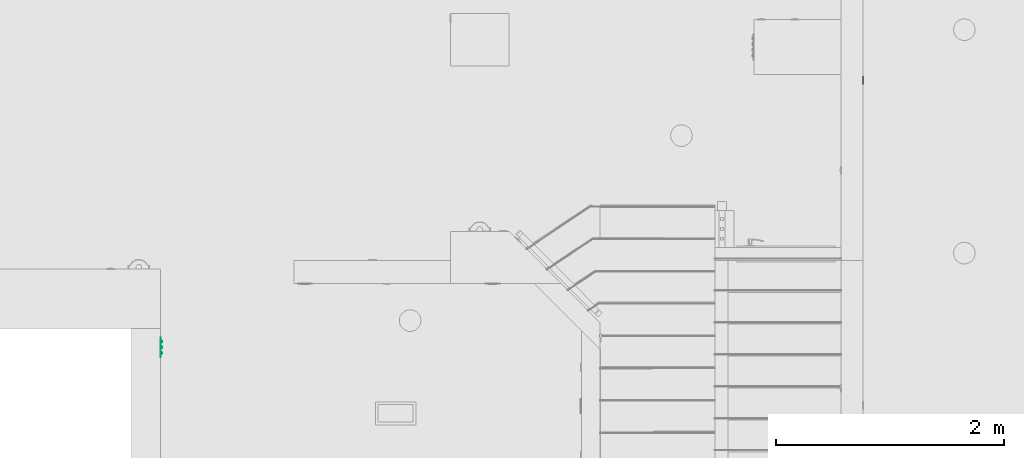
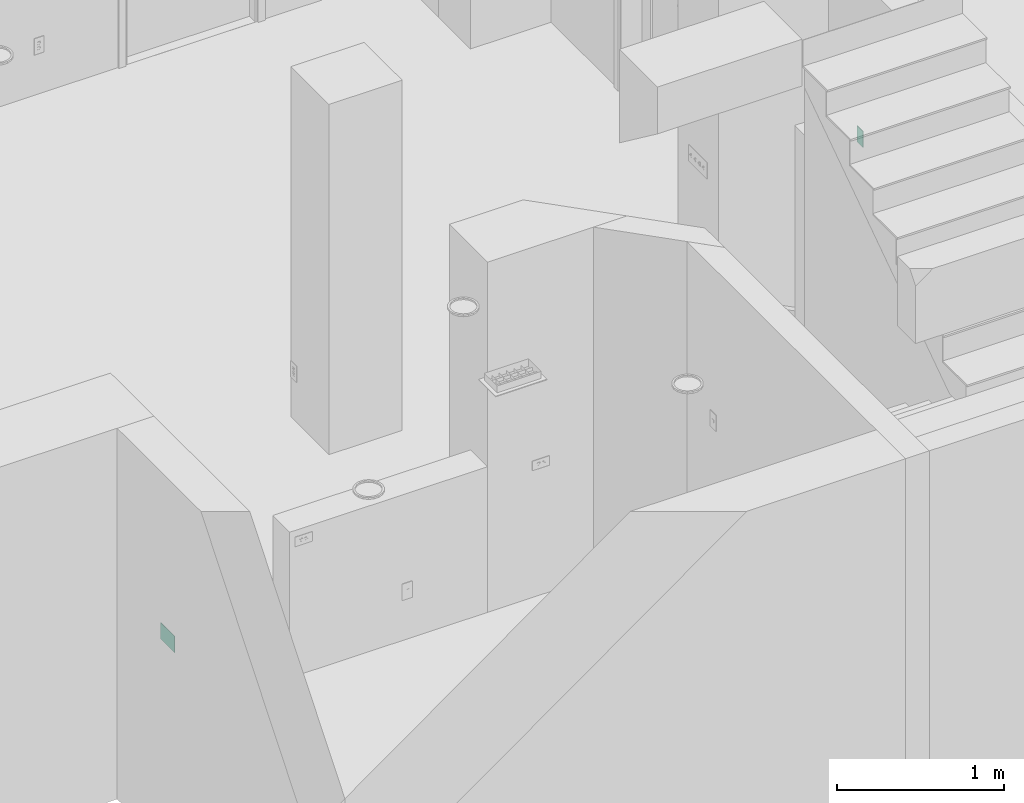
# One storey, part 16 of 48: 2 flow controllers.
"""IFC2X3 building model written with IfcOpenShell, lengths in inches."""

from ifc_helpers import new_model, entity, si_unit, converted_unit, derived_unit, money_unit, direction, frame, origin_with_axes, place, context, subcontext, project, spatial, faceted_brep, type_object, element, save


model = new_model("IFC2X3")

# Units and contexts
model_context = context("Model", 3, precision=0.00039370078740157, world=origin_with_axes(), true_north=direction((0.0, 1.0)))
plan_context = context("Plan", 3, precision=0.00039370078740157, world=origin_with_axes(), true_north=direction((0.0, 1.0)))
body_context = subcontext(model_context, "Body", "Model", "MODEL_VIEW")
ifc_project = project(units=[converted_unit("LENGTHUNIT", "INCH", entity("IfcPositiveLengthMeasure", 0.0254), si_unit("LENGTHUNIT", "METRE"), dimensions=[1, 0, 0, 0, 0, 0, 0]), converted_unit("AREAUNIT", "SQUARE_FOOT", entity("IfcPositiveLengthMeasure", 0.09290304), si_unit("AREAUNIT", "SQUARE_METRE"), dimensions=[2, 0, 0, 0, 0, 0, 0]), si_unit("PLANEANGLEUNIT", "RADIAN"), si_unit("SOLIDANGLEUNIT", "STERADIAN"), money_unit("USD"), converted_unit("TIMEUNIT", "Year", entity("IfcTimeMeasure", 31557600.0), si_unit("TIMEUNIT", "SECOND"), dimensions=[0, 0, 1, 0, 0, 0, 0]), si_unit("MASSUNIT", "GRAM", prefix="KILO"), si_unit("THERMODYNAMICTEMPERATUREUNIT", "DEGREE_CELSIUS"), si_unit("LUMINOUSINTENSITYUNIT", "LUMEN"), si_unit("ENERGYUNIT", "JOULE", prefix="MEGA"), derived_unit("SPECIFICHEATCAPACITYUNIT", [(si_unit("ENERGYUNIT", "JOULE"), 1), (si_unit("MASSUNIT", "GRAM", prefix="KILO"), -1), (si_unit("THERMODYNAMICTEMPERATUREUNIT", "KELVIN"), -1)])], contexts=[model_context, plan_context])

# Site, building, storey
site_placement = place(None, origin_with_axes())
site = spatial("IfcSite", under=ifc_project, at=site_placement, Name="Site", CompositionType="ELEMENT")
building_placement = place(site_placement, origin_with_axes())
building = spatial("IfcBuilding", under=site, at=building_placement, Name="Building", CompositionType="ELEMENT")
storey_placement = place(building_placement, origin_with_axes())
storey = spatial("IfcBuildingStorey", under=building, at=storey_placement, Name="First Floor", CompositionType="ELEMENT", Elevation=0.0)

# Flow controllers
switching_device_type_1 = type_object("IfcSwitchingDeviceType", Name="Outlet 1 US", PredefinedType="NOTDEFINED")
flow_controller_1_placement = place(storey_placement, frame((251.9999999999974, 189.4999999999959, 44.99999999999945), z_axis=(0.0, 0.0, 1.0), x_axis=(0.0, 1.0, 0.0)))
element("IfcFlowController", 1, at=flow_controller_1_placement, inside=storey, type_object=switching_device_type_1, Name="OBJ-05", context=body_context, shape_type="Brep", body=[
    faceted_brep([(-0.39370078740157, -0.0344488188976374, -0.472440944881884), (-0.39370078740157, -0.2165354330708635, -0.472440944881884), (-0.3937007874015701, -0.2165354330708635, 0.472440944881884), (-0.3937007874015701, -0.03444881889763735, 0.472440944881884), (0.3937007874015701, -0.0344488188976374, -0.4724409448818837), (0.3937007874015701, -0.2165354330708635, -0.4724409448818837), (0.39370078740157, -0.2165354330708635, 0.472440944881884), (0.39370078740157, -0.03444881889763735, 0.472440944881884)], [[[0, 1, 2, 3]], [[4, 5, 1, 0]], [[1, 5, 6, 2]], [[3, 2, 6, 7]], [[0, 3, 7, 4]], [[7, 6, 5, 4]]]),
    faceted_brep([(-1.377952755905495, -0.1377952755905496, -2.36220472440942), (1.377952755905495, -0.1377952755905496, -2.36220472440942), (1.377952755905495, -0.1377952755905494, 2.36220472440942), (-1.377952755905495, -0.1377952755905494, 2.36220472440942), (0.3937007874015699, -0.1377952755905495, -0.4724409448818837), (-0.39370078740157, -0.1377952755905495, -0.472440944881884), (-0.3937007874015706, -0.1377952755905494, 0.4724409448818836), (0.39370078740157, -0.1377952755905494, 0.4724409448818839), (-1.377952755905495, 0.0, -2.36220472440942), (1.377952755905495, 0.0, -2.36220472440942), (1.377952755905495, 0.0, 2.36220472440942), (-1.377952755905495, 0.0, 2.36220472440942), (0.3937007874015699, -0.0344488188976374, -0.4724409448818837), (-0.39370078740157, -0.0344488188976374, -0.472440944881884), (-0.3937007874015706, -0.03444881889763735, 0.4724409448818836), (0.39370078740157, -0.03444881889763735, 0.4724409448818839)], [[[0, 1, 2, 3], [4, 5, 6, 7]], [[8, 9, 1, 0]], [[9, 10, 2, 1]], [[10, 11, 3, 2]], [[11, 8, 0, 3]], [[4, 12, 13, 5]], [[5, 13, 14, 6]], [[6, 14, 15, 7]], [[7, 15, 12, 4]], [[10, 9, 8, 11]], [[14, 13, 12, 15]]]),
])
switching_device_type_2 = type_object("IfcSwitchingDeviceType", Name="Switch US", PredefinedType="NOTDEFINED")
flow_controller_2_placement = place(storey_placement, frame((9.999999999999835, 97.4940944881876, 40.9999999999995), z_axis=(0.0, 0.0, 1.0), x_axis=(0.0, 1.0, 0.0)))
element("IfcFlowController", 2, at=flow_controller_2_placement, inside=storey, type_object=switching_device_type_2, Name="OBJ-09", context=body_context, shape_type="Brep", body=[
    faceted_brep([(-2.165354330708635, 0.0, -0.5905511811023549), (-2.165354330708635, 0.0, 0.5905511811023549), (-1.771653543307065, 0.0, 0.5905511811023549), (-1.771653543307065, 0.0, -0.5905511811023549), (-2.165354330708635, -0.1033464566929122, -0.5905511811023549), (-2.165354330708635, -0.1033464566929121, 0.157480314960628), (-2.165354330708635, -0.4970472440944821, 0.1574803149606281), (-2.165354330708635, -0.4970472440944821, 0.472440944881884), (-2.165354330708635, -0.1033464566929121, 0.472440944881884), (-2.165354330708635, -0.103346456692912, 0.5905511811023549), (-1.771653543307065, -0.1033464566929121, 0.5905511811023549), (-1.771653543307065, -0.1033464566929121, 0.472440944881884), (-1.771653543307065, -0.4970472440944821, 0.472440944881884), (-1.771653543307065, -0.4970472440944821, 0.1574803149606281), (-1.771653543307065, -0.1033464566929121, 0.157480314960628), (-1.771653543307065, -0.1033464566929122, -0.5905511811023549)], [[[0, 1, 2, 3]], [[0, 4, 5, 6, 7, 8, 9, 1]], [[1, 9, 10, 2]], [[3, 2, 10, 11, 12, 13, 14, 15]], [[4, 0, 3, 15]], [[5, 4, 15, 14]], [[6, 5, 14, 13]], [[7, 6, 13, 12]], [[8, 7, 12, 11]], [[9, 8, 11, 10]]]),
    faceted_brep([(-2.244094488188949, 0.0, -0.669291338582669), (-1.692913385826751, 0.0, -0.669291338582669), (-1.692913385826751, -0.1771653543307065, -0.669291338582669), (-2.244094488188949, -0.1771653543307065, -0.669291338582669), (-2.244094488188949, 0.0, 0.669291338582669), (-1.692913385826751, 0.0, 0.669291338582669), (-2.165354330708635, 0.0, -0.5905511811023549), (-1.771653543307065, 0.0, -0.5905511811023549), (-1.771653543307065, 0.0, 0.5905511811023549), (-2.165354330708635, 0.0, 0.5905511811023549), (-1.692913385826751, -0.1771653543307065, 0.669291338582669), (-2.244094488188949, -0.1771653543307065, 0.669291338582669), (-2.165354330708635, -0.1771653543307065, -0.5905511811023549), (-2.165354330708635, -0.1771653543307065, 0.5905511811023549), (-1.771653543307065, -0.1771653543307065, 0.5905511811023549), (-1.771653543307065, -0.1771653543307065, -0.5905511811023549)], [[[0, 1, 2, 3]], [[0, 4, 5, 1], [6, 7, 8, 9]], [[1, 5, 10, 2]], [[3, 2, 10, 11], [12, 13, 14, 15]], [[4, 0, 3, 11]], [[5, 4, 11, 10]], [[7, 6, 12, 15]], [[8, 7, 15, 14]], [[9, 8, 14, 13]], [[6, 9, 13, 12]]]),
    faceted_brep([(-0.9842519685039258, -0.103346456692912, 2.362204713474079), (-0.9842519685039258, 0.0, 2.36220472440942), (-3.346456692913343, 0.0, 2.36220472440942), (-3.346456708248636, -0.103346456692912, 2.362204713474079), (-0.9842519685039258, 0.0, -2.36220472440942), (-0.9842519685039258, -0.1122624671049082, 2.361030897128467), (-0.9842519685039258, -0.1277054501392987, 2.352114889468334), (-0.9842519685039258, -0.1366214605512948, 2.336671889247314), (-0.9842519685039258, -0.1377952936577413, 2.32775574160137), (-0.9842519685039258, -0.1377952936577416, -2.327755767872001), (-0.9842519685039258, -0.1366214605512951, -2.336671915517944), (-0.9842519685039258, -0.1277054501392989, -2.352114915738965), (-0.9842519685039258, -0.1122624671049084, -2.361030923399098), (-0.9842519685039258, -0.1033464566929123, -2.36220473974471), (-3.346456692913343, 0.0, -2.36220472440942), (-1.69291338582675, 0.0, -0.669291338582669), (-1.69291338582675, 0.0, 0.669291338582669), (-2.244094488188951, 0.0, 0.669291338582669), (-2.244094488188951, 0.0, -0.669291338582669), (-3.346456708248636, -0.1033464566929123, -2.36220473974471), (-3.345282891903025, -0.1122624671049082, 2.361030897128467), (-3.336366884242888, -0.1277054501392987, 2.352114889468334), (-3.320923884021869, -0.1366214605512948, 2.336671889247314), (-3.312007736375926, -0.1377952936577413, 2.32775574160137), (-3.312007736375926, -0.1377952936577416, -2.327755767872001), (-2.244094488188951, -0.1377952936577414, 0.669291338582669), (-1.69291338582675, -0.1377952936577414, 0.669291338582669), (-1.69291338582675, -0.1377952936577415, -0.669291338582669), (-2.244094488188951, -0.1377952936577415, -0.669291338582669), (-3.320923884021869, -0.1366214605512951, -2.336671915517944), (-3.336366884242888, -0.1277054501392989, -2.352114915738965), (-3.345282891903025, -0.1122624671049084, -2.361030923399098)], [[[0, 1, 2, 3]], [[4, 1, 0, 5, 6, 7, 8, 9, 10, 11, 12, 13]], [[1, 4, 14, 2], [15, 16, 17, 18]], [[19, 3, 2, 14]], [[5, 0, 3, 20]], [[6, 5, 20, 21]], [[7, 6, 21, 22]], [[8, 7, 22, 23]], [[9, 8, 23, 24], [25, 26, 27, 28]], [[10, 9, 24, 29]], [[11, 10, 29, 30]], [[12, 11, 30, 31]], [[13, 12, 31, 19]], [[4, 13, 19, 14]], [[15, 27, 26, 16]], [[16, 26, 25, 17]], [[17, 25, 28, 18]], [[18, 28, 27, 15]], [[31, 20, 3, 19]], [[30, 21, 20, 31]], [[29, 22, 21, 30]], [[24, 23, 22, 29]]]),
    faceted_brep([(-0.1968503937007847, 0.0, -0.5905511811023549), (-0.1968503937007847, 0.0, 0.5905511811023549), (0.1968503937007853, 0.0, 0.5905511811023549), (0.1968503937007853, 0.0, -0.5905511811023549), (-0.1968503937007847, -0.1033464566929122, -0.5905511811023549), (-0.1968503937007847, -0.1033464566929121, 0.157480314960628), (-0.1968503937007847, -0.4970472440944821, 0.1574803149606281), (-0.1968503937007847, -0.4970472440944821, 0.472440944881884), (-0.1968503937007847, -0.1033464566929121, 0.472440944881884), (-0.1968503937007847, -0.103346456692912, 0.5905511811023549), (0.1968503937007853, -0.1033464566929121, 0.5905511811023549), (0.1968503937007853, -0.1033464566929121, 0.472440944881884), (0.1968503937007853, -0.4970472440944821, 0.472440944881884), (0.1968503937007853, -0.4970472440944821, 0.1574803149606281), (0.1968503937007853, -0.1033464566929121, 0.157480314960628), (0.1968503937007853, -0.1033464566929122, -0.5905511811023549)], [[[0, 1, 2, 3]], [[0, 4, 5, 6, 7, 8, 9, 1]], [[1, 9, 10, 2]], [[3, 2, 10, 11, 12, 13, 14, 15]], [[4, 0, 3, 15]], [[5, 4, 15, 14]], [[6, 5, 14, 13]], [[7, 6, 13, 12]], [[8, 7, 12, 11]], [[9, 8, 11, 10]]]),
    faceted_brep([(-0.2755905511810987, 0.0, -0.669291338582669), (0.2755905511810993, 0.0, -0.669291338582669), (0.2755905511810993, -0.1771653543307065, -0.669291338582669), (-0.2755905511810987, -0.1771653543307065, -0.669291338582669), (-0.2755905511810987, 0.0, 0.669291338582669), (0.2755905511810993, 0.0, 0.669291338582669), (-0.1968503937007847, 0.0, -0.5905511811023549), (0.1968503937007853, 0.0, -0.5905511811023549), (0.1968503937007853, 0.0, 0.5905511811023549), (-0.1968503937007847, 0.0, 0.5905511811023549), (0.2755905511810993, -0.1771653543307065, 0.669291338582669), (-0.2755905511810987, -0.1771653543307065, 0.669291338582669), (-0.1968503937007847, -0.1771653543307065, -0.5905511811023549), (-0.1968503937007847, -0.1771653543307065, 0.5905511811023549), (0.1968503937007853, -0.1771653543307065, 0.5905511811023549), (0.1968503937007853, -0.1771653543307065, -0.5905511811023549)], [[[0, 1, 2, 3]], [[0, 4, 5, 1], [6, 7, 8, 9]], [[1, 5, 10, 2]], [[3, 2, 10, 11], [12, 13, 14, 15]], [[4, 0, 3, 11]], [[5, 4, 11, 10]], [[7, 6, 12, 15]], [[8, 7, 15, 14]], [[9, 8, 14, 13]], [[6, 9, 13, 12]]]),
    faceted_brep([(-0.9842519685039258, 0.0, -2.36220472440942), (-0.9842519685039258, 0.0, 2.36220472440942), (0.9842519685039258, 0.0, 2.36220472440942), (0.9842519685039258, 0.0, -2.36220472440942), (0.2755905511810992, 0.0, 0.669291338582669), (-0.2755905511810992, 0.0, 0.669291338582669), (-0.2755905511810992, 0.0, -0.669291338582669), (0.2755905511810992, 0.0, -0.669291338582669), (-0.9842519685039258, -0.103346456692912, 2.362204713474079), (-0.9842519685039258, -0.1033464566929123, -2.36220473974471), (-0.9842519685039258, -0.1122624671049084, -2.361030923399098), (-0.9842519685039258, -0.1277054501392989, -2.352114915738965), (-0.9842519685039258, -0.1366214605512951, -2.336671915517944), (-0.9842519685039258, -0.1377952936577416, -2.327755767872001), (-0.9842519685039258, -0.1377952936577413, 2.32775574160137), (-0.9842519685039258, -0.1366214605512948, 2.336671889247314), (-0.9842519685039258, -0.1277054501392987, 2.352114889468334), (-0.9842519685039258, -0.1122624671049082, 2.361030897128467), (0.9842519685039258, -0.103346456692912, 2.362204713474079), (0.9842519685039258, -0.1277054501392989, -2.352114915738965), (0.9842519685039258, -0.1122624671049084, -2.361030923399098), (0.9842519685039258, -0.1033464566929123, -2.36220473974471), (0.9842519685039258, -0.1122624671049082, 2.361030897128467), (0.9842519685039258, -0.1277054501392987, 2.352114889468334), (0.9842519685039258, -0.1366214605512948, 2.336671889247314), (0.9842519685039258, -0.1377952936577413, 2.32775574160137), (0.9842519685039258, -0.1377952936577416, -2.327755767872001), (0.9842519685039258, -0.1366214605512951, -2.336671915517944), (0.2755905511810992, -0.1377952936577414, 0.669291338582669), (-0.2755905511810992, -0.1377952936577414, 0.669291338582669), (-0.2755905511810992, -0.1377952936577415, -0.669291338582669), (0.2755905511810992, -0.1377952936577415, -0.669291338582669)], [[[0, 1, 2, 3], [4, 5, 6, 7]], [[8, 1, 0, 9, 10, 11, 12, 13, 14, 15, 16, 17]], [[1, 8, 18, 2]], [[19, 20, 21, 3, 2, 18, 22, 23, 24, 25, 26, 27]], [[9, 0, 3, 21]], [[28, 29, 5, 4]], [[29, 30, 6, 5]], [[30, 31, 7, 6]], [[31, 28, 4, 7]], [[10, 9, 21, 20]], [[11, 10, 20, 19]], [[12, 11, 19, 27]], [[13, 12, 27, 26]], [[14, 13, 26, 25], [28, 31, 30, 29]], [[15, 14, 25, 24]], [[16, 15, 24, 23]], [[17, 16, 23, 22]], [[8, 17, 22, 18]]]),
    faceted_brep([(1.771653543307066, 0.0, -0.5905511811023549), (1.771653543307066, 0.0, 0.5905511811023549), (2.165354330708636, 0.0, 0.5905511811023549), (2.165354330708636, 0.0, -0.5905511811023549), (1.771653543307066, -0.1033464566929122, -0.5905511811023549), (1.771653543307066, -0.1033464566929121, 0.157480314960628), (1.771653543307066, -0.4970472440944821, 0.1574803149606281), (1.771653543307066, -0.4970472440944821, 0.472440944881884), (1.771653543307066, -0.1033464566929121, 0.472440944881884), (1.771653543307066, -0.103346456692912, 0.5905511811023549), (2.165354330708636, -0.1033464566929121, 0.5905511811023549), (2.165354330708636, -0.1033464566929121, 0.472440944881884), (2.165354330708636, -0.4970472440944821, 0.472440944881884), (2.165354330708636, -0.4970472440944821, 0.1574803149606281), (2.165354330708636, -0.1033464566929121, 0.157480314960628), (2.165354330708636, -0.1033464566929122, -0.5905511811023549)], [[[0, 1, 2, 3]], [[0, 4, 5, 6, 7, 8, 9, 1]], [[1, 9, 10, 2]], [[3, 2, 10, 11, 12, 13, 14, 15]], [[4, 0, 3, 15]], [[5, 4, 15, 14]], [[6, 5, 14, 13]], [[7, 6, 13, 12]], [[8, 7, 12, 11]], [[9, 8, 11, 10]]]),
    faceted_brep([(1.692913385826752, 0.0, -0.669291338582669), (2.24409448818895, 0.0, -0.669291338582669), (2.24409448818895, -0.1771653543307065, -0.669291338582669), (1.692913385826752, -0.1771653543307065, -0.669291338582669), (1.692913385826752, 0.0, 0.669291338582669), (2.24409448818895, 0.0, 0.669291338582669), (1.771653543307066, 0.0, -0.5905511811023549), (2.165354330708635, 0.0, -0.5905511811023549), (2.165354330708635, 0.0, 0.5905511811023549), (1.771653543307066, 0.0, 0.5905511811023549), (2.24409448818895, -0.1771653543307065, 0.669291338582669), (1.692913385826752, -0.1771653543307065, 0.669291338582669), (1.771653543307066, -0.1771653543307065, -0.5905511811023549), (1.771653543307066, -0.1771653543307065, 0.5905511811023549), (2.165354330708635, -0.1771653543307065, 0.5905511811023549), (2.165354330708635, -0.1771653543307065, -0.5905511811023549)], [[[0, 1, 2, 3]], [[0, 4, 5, 1], [6, 7, 8, 9]], [[1, 5, 10, 2]], [[3, 2, 10, 11], [12, 13, 14, 15]], [[4, 0, 3, 11]], [[5, 4, 11, 10]], [[7, 6, 12, 15]], [[8, 7, 15, 14]], [[9, 8, 14, 13]], [[6, 9, 13, 12]]]),
    faceted_brep([(0.9842519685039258, 0.0, -2.36220472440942), (0.9842519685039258, 0.0, 2.36220472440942), (3.346456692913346, 0.0, 2.36220472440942), (3.346456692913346, 0.0, -2.36220472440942), (2.244094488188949, 0.0, -0.669291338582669), (2.244094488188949, 0.0, 0.669291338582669), (1.692913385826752, 0.0, 0.669291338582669), (1.692913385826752, 0.0, -0.669291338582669), (0.9842519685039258, -0.103346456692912, 2.362204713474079), (0.9842519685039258, -0.1033464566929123, -2.36220473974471), (0.9842519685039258, -0.1122624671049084, -2.361030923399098), (0.9842519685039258, -0.1277054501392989, -2.352114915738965), (0.9842519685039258, -0.1366214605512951, -2.336671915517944), (0.9842519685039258, -0.1377952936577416, -2.327755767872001), (0.9842519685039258, -0.1377952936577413, 2.32775574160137), (0.9842519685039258, -0.1366214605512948, 2.336671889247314), (0.9842519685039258, -0.1277054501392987, 2.352114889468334), (0.9842519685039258, -0.1122624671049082, 2.361030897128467), (3.346456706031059, -0.103346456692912, 2.362204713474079), (3.346456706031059, -0.1033464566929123, -2.36220473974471), (2.244094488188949, -0.1377952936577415, -0.669291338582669), (2.244094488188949, -0.1377952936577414, 0.669291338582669), (1.692913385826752, -0.1377952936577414, 0.669291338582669), (1.692913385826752, -0.1377952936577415, -0.669291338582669), (3.345282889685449, -0.1122624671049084, -2.361030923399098), (3.336366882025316, -0.1277054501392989, -2.352114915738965), (3.320923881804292, -0.1366214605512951, -2.336671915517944), (3.312007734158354, -0.1377952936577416, -2.327755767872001), (3.312007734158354, -0.1377952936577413, 2.32775574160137), (3.320923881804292, -0.1366214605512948, 2.336671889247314), (3.336366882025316, -0.1277054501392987, 2.352114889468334), (3.345282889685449, -0.1122624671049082, 2.361030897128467)], [[[0, 1, 2, 3], [4, 5, 6, 7]], [[8, 1, 0, 9, 10, 11, 12, 13, 14, 15, 16, 17]], [[1, 8, 18, 2]], [[18, 19, 3, 2]], [[9, 0, 3, 19]], [[4, 20, 21, 5]], [[5, 21, 22, 6]], [[6, 22, 23, 7]], [[7, 23, 20, 4]], [[10, 9, 19, 24]], [[11, 10, 24, 25]], [[12, 11, 25, 26]], [[13, 12, 26, 27]], [[14, 13, 27, 28], [22, 21, 20, 23]], [[15, 14, 28, 29]], [[16, 15, 29, 30]], [[17, 16, 30, 31]], [[8, 17, 31, 18]], [[31, 24, 19, 18]], [[30, 25, 24, 31]], [[29, 26, 25, 30]], [[28, 27, 26, 29]]]),
])

save(model, "model.ifc")
